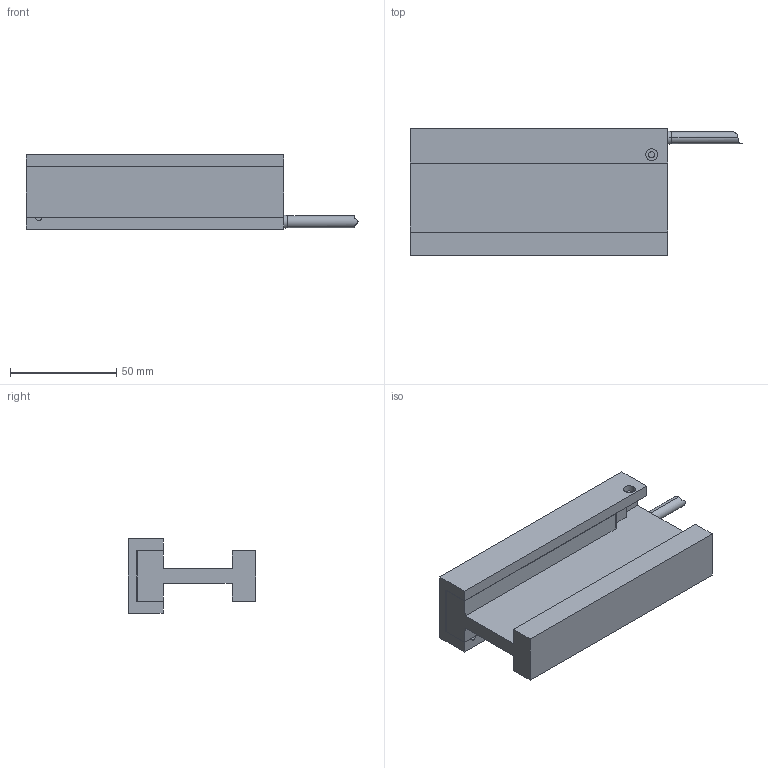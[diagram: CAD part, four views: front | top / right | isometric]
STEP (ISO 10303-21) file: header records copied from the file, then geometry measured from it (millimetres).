
FILE_DESCRIPTION (( 'STEP AP214' ), '1' );
FILE_NAME ('DX30F-C2-NH -REV.step', '2022-05-06T02:56:39', ( '' ), ( '' ), 'SwSTEP 2.0', 'SolidWorks 2020', '' );
FILE_SCHEMA (( 'AUTOMOTIVE_DESIGN' ));
Length unit declared in the file: millimetre
Products named in the file (1): DX30F-C2-NH -REV
Bounding box: 156 x 60 x 35 mm (x, y, z)
Volume: 128183.3 mm3; surface area: 42324.5 mm2
Topology: 3 solids, 4 shells, 93 faces, 230 edges, 137 vertices
Faces by surface type: plane 40, cylinder 33, cone 18, torus 2
Entity records: 3686 total; most frequent: CARTESIAN_POINT 470, DIRECTION 458, ORIENTED_EDGE 424, EDGE_CURVE 212, AXIS2_PLACEMENT_3D 161, VERTEX_POINT 137, LINE 136, VECTOR 136
